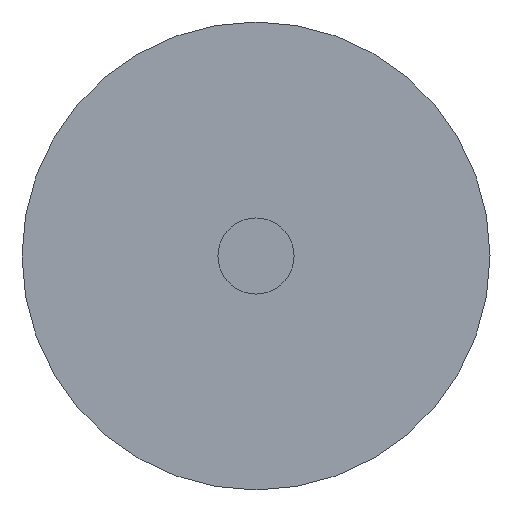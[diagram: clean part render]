
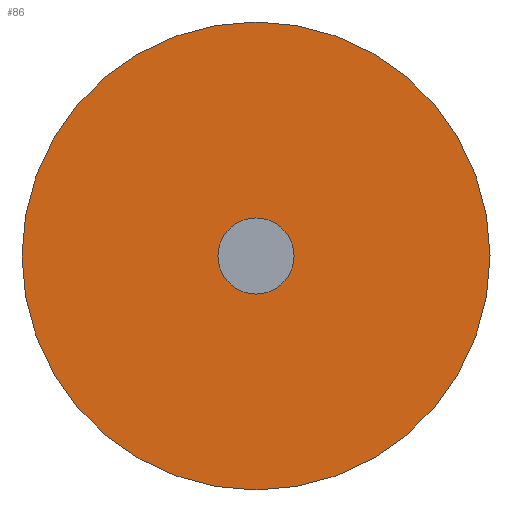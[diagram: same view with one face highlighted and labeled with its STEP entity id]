
A CAD part, left-side view. The second image highlights one B-rep face of the part: STEP entity #86.
In plain terms, the highlighted planar face has unit normal (-1, 0, 0).
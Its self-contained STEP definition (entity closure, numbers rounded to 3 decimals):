
#16=PLANE('',#101);
#26=FACE_OUTER_BOUND('',#36,.T.);
#36=EDGE_LOOP('',(#66));
#47=CIRCLE('',#100,2.);
#53=VERTEX_POINT('',#149);
#59=EDGE_CURVE('',#53,#53,#47,.T.);
#66=ORIENTED_EDGE('',*,*,#59,.T.);
#86=ADVANCED_FACE('',(#26),#16,.F.);
#100=AXIS2_PLACEMENT_3D('',#150,#119,#120);
#101=AXIS2_PLACEMENT_3D('',#151,#121,#122);
#119=DIRECTION('center_axis',(-1.,0.,0.));
#120=DIRECTION('ref_axis',(0.,-1.,0.));
#121=DIRECTION('center_axis',(1.,0.,0.));
#122=DIRECTION('ref_axis',(0.,0.,-1.));
#149=CARTESIAN_POINT('',(0.,2.,0.));
#150=CARTESIAN_POINT('Origin',(0.,0.,0.));
#151=CARTESIAN_POINT('Origin',(0.,0.,0.));
